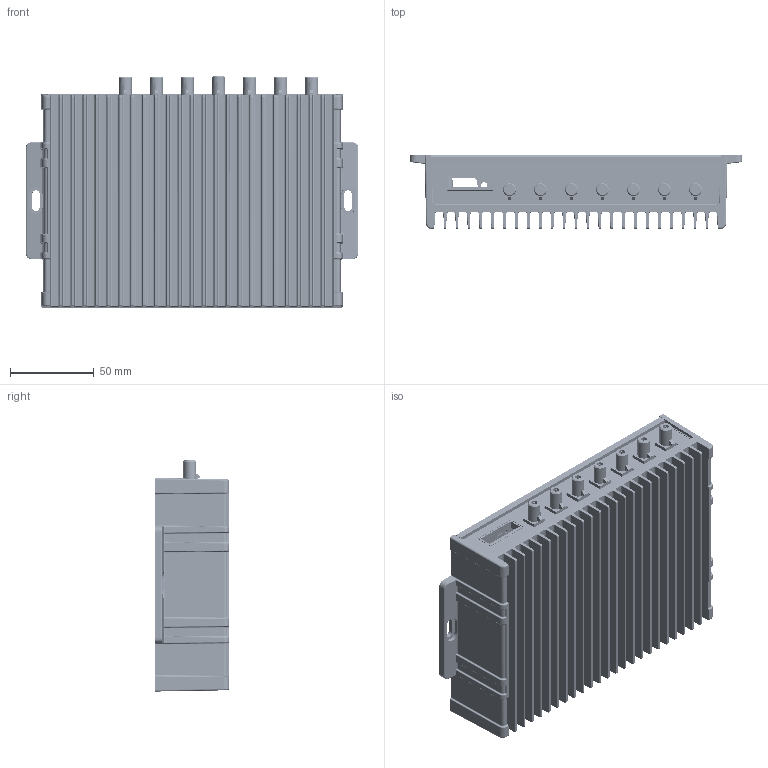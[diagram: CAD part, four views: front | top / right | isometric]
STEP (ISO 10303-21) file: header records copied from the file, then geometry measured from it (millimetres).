
FILE_DESCRIPTION (( 'STEP AP203' ), '1' );
FILE_NAME ('50002129-XX REV 01 TX40 5G ASSY.STEP', '2022-09-20T03:54:17', ( '' ), ( '' ), 'SwSTEP 2.0', 'SolidWorks 2022', '' );
FILE_SCHEMA (( 'CONFIG_CONTROL_DESIGN' ));
Length unit declared in the file: millimetre
Products named in the file (20): 12000688 SCR M3X0.5 X 5MM L FH PH BLK; 51000331-01 REV 01 TX40 SUB-ASSY SIM DOOR_2022.09.20_NO PCB; 60006466-01 REV 01 TX40 SIM DOOR_2022.09.20; 60006462-01 REV 01 TX40 BASE_2022.09.20; 60006464-01 REV 01 TX40 PANEL FRONT_2022.09.20; 50002129-XX REV 01 TX40 5G ASSY; 60006463-01 REV 01 TX40 LID_2022.09.20; 64001604-02 REV 01 TX40 OVERLAY 5G REAR_2022.09.20; 12000596 SCR M4X0.7 X 10MM L FH PH BLK; 12000685 TX40 USB DUST COVER; 64001607-01 REV 01 TX40 GASKET REAR_2022.09.20; FAKRA; 64001605-01 REV 01 TX40 GASKET BASE_2022.09.20; 51000329-01 REV 01 TX40 SUB-ASSY PANEL FRONT_2022.09.20_NO PCB; 64001606-01 REV 01 TX40 GASKET FRONT_2022.09.20; 51000330-XX REV 01 TX40 SUB-ASSY PANEL REAR_2022.09.20_NO PCB - 5G; 60006465-01 REV 01 TX40 PANEL REAR_2022.09.20; 64001608-01 REV 01 TX40 GASKET SIM DOOR_2022.09.20; 12000565 SCR M3X0.5 X 6MM RN HD PH HD SEMS; 64001603-01 REV 01 TX40 OVERLAY FRONT_2022.09.20
Assembly tree (34 placements, depth 3):
  50002129-XX REV 01 TX40 5G ASSY
    60006462-01 REV 01 TX40 BASE_2022.09.20
    64001605-01 REV 01 TX40 GASKET BASE_2022.09.20
    51000329-01 REV 01 TX40 SUB-ASSY PANEL FRONT_2022.09.20_NO PCB
      64001603-01 REV 01 TX40 OVERLAY FRONT_2022.09.20
      60006464-01 REV 01 TX40 PANEL FRONT_2022.09.20
      64001606-01 REV 01 TX40 GASKET FRONT_2022.09.20
      12000685 TX40 USB DUST COVER
    51000330-XX REV 01 TX40 SUB-ASSY PANEL REAR_2022.09.20_NO PCB - 5G
      60006465-01 REV 01 TX40 PANEL REAR_2022.09.20
      64001607-01 REV 01 TX40 GASKET REAR_2022.09.20
      64001604-02 REV 01 TX40 OVERLAY 5G REAR_2022.09.20
    51000331-01 REV 01 TX40 SUB-ASSY SIM DOOR_2022.09.20_NO PCB
      60006466-01 REV 01 TX40 SIM DOOR_2022.09.20
      64001608-01 REV 01 TX40 GASKET SIM DOOR_2022.09.20
      12000688 SCR M3X0.5 X 5MM L FH PH BLK  x2
    60006463-01 REV 01 TX40 LID_2022.09.20
    12000565 SCR M3X0.5 X 6MM RN HD PH HD SEMS  x6
    12000596 SCR M4X0.7 X 10MM L FH PH BLK  x4
    FAKRA  x7
Bounding box: 198 x 44 x 137.87 mm (x, y, z)
Volume: 295897 mm3; surface area: 288736.2 mm2
Topology: 31 solids, 31 shells, 4345 faces, 11045 edges, 6886 vertices
Faces by surface type: plane 1562, cylinder 1474, bspline 615, cone 491, torus 124, sphere 79
Entity records: 137030 total; most frequent: CARTESIAN_POINT 56030, ORIENTED_EDGE 17372, DIRECTION 15547, EDGE_CURVE 8686, AXIS2_PLACEMENT_3D 5586, VERTEX_POINT 5392, LINE 4375, VECTOR 4375
